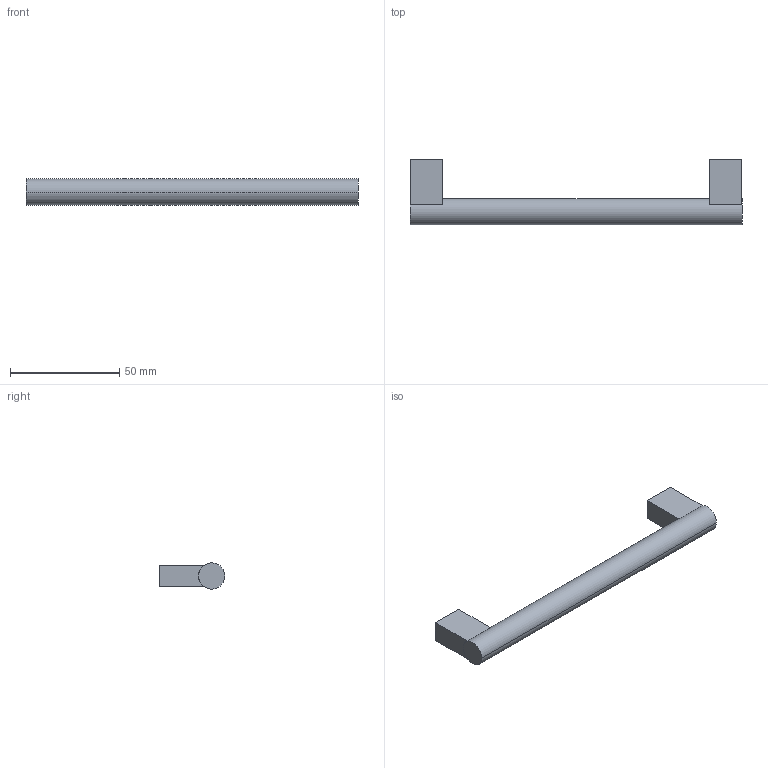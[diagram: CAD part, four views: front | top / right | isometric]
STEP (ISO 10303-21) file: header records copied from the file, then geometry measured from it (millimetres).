
FILE_DESCRIPTION( ( '' ), '1' );
FILE_NAME( 'C:/Documents and Settings/Nikhil/Desktop/Nik/Done/9995498.stp', '2013-10-24T05:49:06', ( '' ), ( '' ), ' ', ' ', ' ' );
FILE_SCHEMA( ( 'automotive_design' ) );
Length unit declared in the file: millimetre
Products named in the file (1): 1
Bounding box: 152 x 30 x 12 mm (x, y, z)
Volume: 22628.3 mm3; surface area: 8095.7 mm2
Topology: 1 solids, 1 shells, 20 faces, 48 edges, 32 vertices
Faces by surface type: plane 14, cylinder 6
Entity records: 1176 total; most frequent: DIRECTION 110, STYLED_ITEM 101, PRESENTATION_STYLE_ASSIGNMENT 101, CARTESIAN_POINT 101, COLOUR_RGB 101, ORIENTED_EDGE 96, EDGE_CURVE 48, CURVE_STYLE 48
